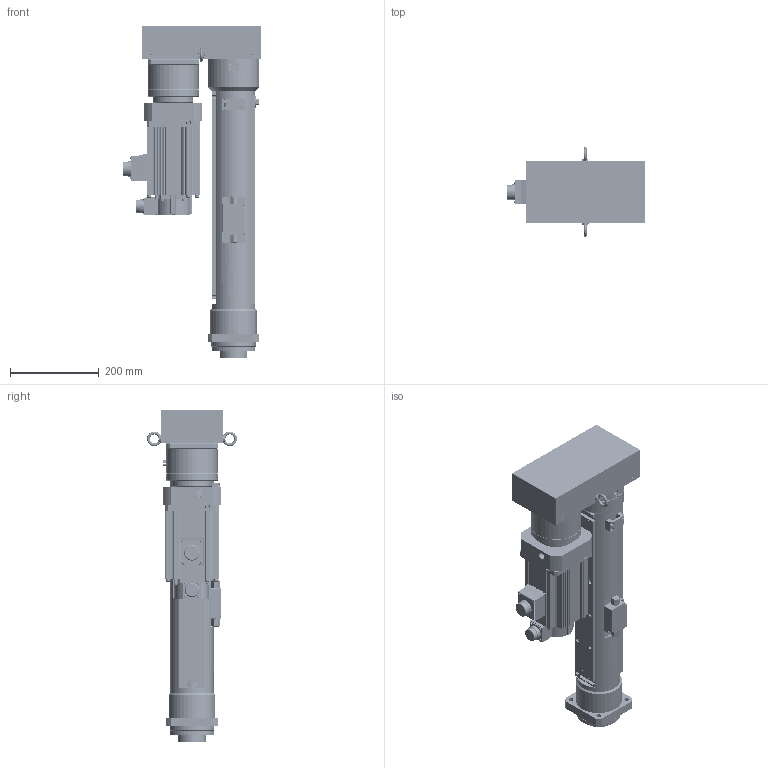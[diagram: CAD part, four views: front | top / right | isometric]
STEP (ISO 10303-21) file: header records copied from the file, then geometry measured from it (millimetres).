
FILE_DESCRIPTION( ('This file contains a STEP AP42 implementation' ,'as created by ZW3D STEP Interface translator.') ,'2;1' );
FILE_NAME( 'OACIS-DC-P025-P030-400-200-A6V200_V20.51.stp' ,'26 421.183520', (''), ('ZWCAD Software Co.'), 'Version 1.0', 'ZW3D to STEP translator', '' );
FILE_SCHEMA(('AUTOMOTIVE_DESIGN { 1 0 10303 214 1 1 1 1 }'));
Length unit declared in the file: millimetre
Products named in the file (1): 0
Bounding box: 311 x 202.6 x 748 mm (x, y, z)
Volume: 7550771.6 mm3; surface area: 1655634.5 mm2
Topology: 51 solids, 56 shells, 3204 faces, 8194 edges, 5350 vertices
Faces by surface type: cylinder 1513, plane 1224, cone 336, torus 100, sphere 21, bspline 10
Full cylindrical faces by diameter (mm): 1.6 x8, 2.459 x5, 2.75 x4, 3.2 x5, 3.242 x10, 3.3 x91, 4 x8, 4.134 x14, 4.2 x4, 4.3 x32, 4.5 x4, 5 x36, 5.5 x4, 5.6 x5, 6.6 x14, 6.647 x4, 6.8 x42, 7 x12, 8 x39, 8.4 x8, 8.5 x35, 9 x8, 9.5 x4, 10 x8, 10.106 x1, 11 x12, 12 x1, 15 x8, 15.5 x2, 16.5 x2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
Entity records: 107007 total; most frequent: CARTESIAN_POINT 21561, DIRECTION 18288, ORIENTED_EDGE 16164, EDGE_CURVE 8090, AXIS2_PLACEMENT_3D 7248, VERTEX_POINT 5293, CIRCLE 4030, EDGE_LOOP 3846
